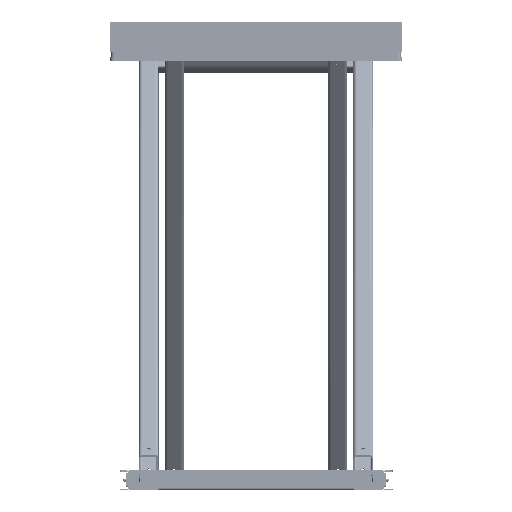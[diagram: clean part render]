
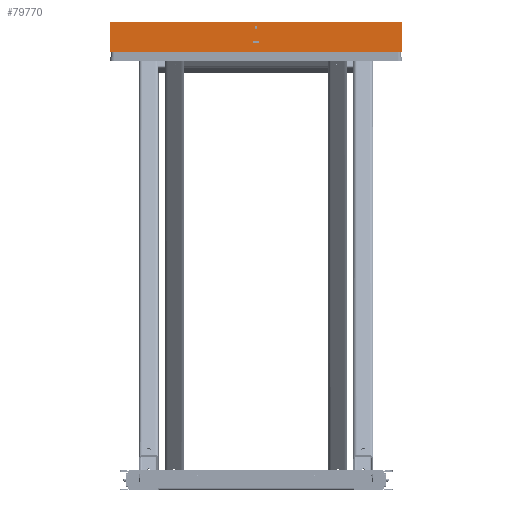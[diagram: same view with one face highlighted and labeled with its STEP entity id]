
A CAD part, front view. The second image highlights one B-rep face of the part: STEP entity #79770.
In plain terms, the highlighted planar face has unit normal (0, -1, 0) as drawn and (0, 0, 1) by its records, which use the part's own axes.
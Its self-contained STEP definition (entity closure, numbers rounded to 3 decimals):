
#3804=FACE_BOUND('',#13367,.T.);
#3805=FACE_BOUND('',#13368,.T.);
#5355=PLANE('',#86346);
#8690=FACE_OUTER_BOUND('',#13366,.T.);
#13366=EDGE_LOOP('',(#65438,#65439,#65440,#65441,#65442,#65443,#65444,#65445));
#13367=EDGE_LOOP('',(#65446,#65447,#65448,#65449,#65450,#65451,#65452,#65453,
#65454,#65455,#65456,#65457,#65458,#65459,#65460,#65461));
#13368=EDGE_LOOP('',(#65462));
#19868=LINE('',#125069,#27515);
#19869=LINE('',#125073,#27516);
#19870=LINE('',#125077,#27517);
#19871=LINE('',#125080,#27518);
#19872=LINE('',#125082,#27519);
#19873=LINE('',#125090,#27520);
#19874=LINE('',#125098,#27521);
#19875=LINE('',#125106,#27522);
#27515=VECTOR('',#102150,10.);
#27516=VECTOR('',#102153,10.);
#27517=VECTOR('',#102156,10.);
#27518=VECTOR('',#102159,10.);
#27519=VECTOR('',#102160,10.);
#27520=VECTOR('',#102167,10.);
#27521=VECTOR('',#102174,10.);
#27522=VECTOR('',#102181,10.);
#32729=CIRCLE('',#86342,1.);
#32730=CIRCLE('',#86344,1.);
#32732=CIRCLE('',#86347,1.);
#32733=CIRCLE('',#86348,1.);
#32734=CIRCLE('',#86349,1.);
#32735=CIRCLE('',#86350,1.);
#32736=CIRCLE('',#86351,1.);
#32737=CIRCLE('',#86352,1.);
#32738=CIRCLE('',#86353,1.);
#32739=CIRCLE('',#86354,1.);
#32740=CIRCLE('',#86355,1.);
#32741=CIRCLE('',#86356,1.);
#32742=CIRCLE('',#86357,1.);
#32743=CIRCLE('',#86358,1.);
#32744=CIRCLE('',#86359,1.);
#32745=CIRCLE('',#86360,1.);
#32746=CIRCLE('',#86361,6.25);
#38134=VERTEX_POINT('',#125053);
#38135=VERTEX_POINT('',#125055);
#38136=VERTEX_POINT('',#125059);
#38138=VERTEX_POINT('',#125065);
#38139=VERTEX_POINT('',#125066);
#38140=VERTEX_POINT('',#125068);
#38141=VERTEX_POINT('',#125070);
#38142=VERTEX_POINT('',#125072);
#38143=VERTEX_POINT('',#125074);
#38144=VERTEX_POINT('',#125076);
#38145=VERTEX_POINT('',#125078);
#38146=VERTEX_POINT('',#125081);
#38147=VERTEX_POINT('',#125083);
#38148=VERTEX_POINT('',#125085);
#38149=VERTEX_POINT('',#125087);
#38150=VERTEX_POINT('',#125089);
#38151=VERTEX_POINT('',#125091);
#38152=VERTEX_POINT('',#125093);
#38153=VERTEX_POINT('',#125095);
#38154=VERTEX_POINT('',#125097);
#38155=VERTEX_POINT('',#125099);
#38156=VERTEX_POINT('',#125101);
#38157=VERTEX_POINT('',#125103);
#38158=VERTEX_POINT('',#125105);
#38159=VERTEX_POINT('',#125108);
#47830=EDGE_CURVE('',#38134,#38135,#32729,.T.);
#47832=EDGE_CURVE('',#38136,#38135,#32730,.T.);
#47835=EDGE_CURVE('',#38138,#38139,#32732,.T.);
#47836=EDGE_CURVE('',#38140,#38138,#19868,.T.);
#47837=EDGE_CURVE('',#38141,#38140,#32733,.T.);
#47838=EDGE_CURVE('',#38142,#38141,#19869,.T.);
#47839=EDGE_CURVE('',#38143,#38142,#32734,.T.);
#47840=EDGE_CURVE('',#38144,#38143,#19870,.T.);
#47841=EDGE_CURVE('',#38145,#38144,#32735,.T.);
#47842=EDGE_CURVE('',#38139,#38145,#19871,.T.);
#47843=EDGE_CURVE('',#38134,#38146,#19872,.T.);
#47844=EDGE_CURVE('',#38147,#38146,#32736,.T.);
#47845=EDGE_CURVE('',#38147,#38148,#32737,.T.);
#47846=EDGE_CURVE('',#38149,#38148,#32738,.T.);
#47847=EDGE_CURVE('',#38149,#38150,#19873,.T.);
#47848=EDGE_CURVE('',#38151,#38150,#32739,.T.);
#47849=EDGE_CURVE('',#38151,#38152,#32740,.T.);
#47850=EDGE_CURVE('',#38153,#38152,#32741,.T.);
#47851=EDGE_CURVE('',#38153,#38154,#19874,.T.);
#47852=EDGE_CURVE('',#38155,#38154,#32742,.T.);
#47853=EDGE_CURVE('',#38155,#38156,#32743,.T.);
#47854=EDGE_CURVE('',#38157,#38156,#32744,.T.);
#47855=EDGE_CURVE('',#38157,#38158,#19875,.T.);
#47856=EDGE_CURVE('',#38136,#38158,#32745,.T.);
#47857=EDGE_CURVE('',#38159,#38159,#32746,.T.);
#65438=ORIENTED_EDGE('',*,*,#47835,.F.);
#65439=ORIENTED_EDGE('',*,*,#47836,.F.);
#65440=ORIENTED_EDGE('',*,*,#47837,.F.);
#65441=ORIENTED_EDGE('',*,*,#47838,.F.);
#65442=ORIENTED_EDGE('',*,*,#47839,.F.);
#65443=ORIENTED_EDGE('',*,*,#47840,.F.);
#65444=ORIENTED_EDGE('',*,*,#47841,.F.);
#65445=ORIENTED_EDGE('',*,*,#47842,.F.);
#65446=ORIENTED_EDGE('',*,*,#47830,.F.);
#65447=ORIENTED_EDGE('',*,*,#47843,.T.);
#65448=ORIENTED_EDGE('',*,*,#47844,.F.);
#65449=ORIENTED_EDGE('',*,*,#47845,.T.);
#65450=ORIENTED_EDGE('',*,*,#47846,.F.);
#65451=ORIENTED_EDGE('',*,*,#47847,.T.);
#65452=ORIENTED_EDGE('',*,*,#47848,.F.);
#65453=ORIENTED_EDGE('',*,*,#47849,.T.);
#65454=ORIENTED_EDGE('',*,*,#47850,.F.);
#65455=ORIENTED_EDGE('',*,*,#47851,.T.);
#65456=ORIENTED_EDGE('',*,*,#47852,.F.);
#65457=ORIENTED_EDGE('',*,*,#47853,.T.);
#65458=ORIENTED_EDGE('',*,*,#47854,.F.);
#65459=ORIENTED_EDGE('',*,*,#47855,.T.);
#65460=ORIENTED_EDGE('',*,*,#47856,.F.);
#65461=ORIENTED_EDGE('',*,*,#47832,.T.);
#65462=ORIENTED_EDGE('',*,*,#47857,.T.);
#79770=ADVANCED_FACE('',(#8690,#3804,#3805),#5355,.T.);
#86342=AXIS2_PLACEMENT_3D('',#125056,#102136,#102137);
#86344=AXIS2_PLACEMENT_3D('',#125060,#102141,#102142);
#86346=AXIS2_PLACEMENT_3D('',#125064,#102146,#102147);
#86347=AXIS2_PLACEMENT_3D('',#125067,#102148,#102149);
#86348=AXIS2_PLACEMENT_3D('',#125071,#102151,#102152);
#86349=AXIS2_PLACEMENT_3D('',#125075,#102154,#102155);
#86350=AXIS2_PLACEMENT_3D('',#125079,#102157,#102158);
#86351=AXIS2_PLACEMENT_3D('',#125084,#102161,#102162);
#86352=AXIS2_PLACEMENT_3D('',#125086,#102163,#102164);
#86353=AXIS2_PLACEMENT_3D('',#125088,#102165,#102166);
#86354=AXIS2_PLACEMENT_3D('',#125092,#102168,#102169);
#86355=AXIS2_PLACEMENT_3D('',#125094,#102170,#102171);
#86356=AXIS2_PLACEMENT_3D('',#125096,#102172,#102173);
#86357=AXIS2_PLACEMENT_3D('',#125100,#102175,#102176);
#86358=AXIS2_PLACEMENT_3D('',#125102,#102177,#102178);
#86359=AXIS2_PLACEMENT_3D('',#125104,#102179,#102180);
#86360=AXIS2_PLACEMENT_3D('',#125107,#102182,#102183);
#86361=AXIS2_PLACEMENT_3D('',#125109,#102184,#102185);
#102136=DIRECTION('center_axis',(0.,0.,-1.));
#102137=DIRECTION('ref_axis',(-0.5,-0.866,0.));
#102141=DIRECTION('center_axis',(0.,0.,-1.));
#102142=DIRECTION('ref_axis',(1.,0.,0.));
#102146=DIRECTION('center_axis',(0.,0.,1.));
#102147=DIRECTION('ref_axis',(1.,0.,0.));
#102148=DIRECTION('center_axis',(0.,0.,-1.));
#102149=DIRECTION('ref_axis',(-0.707,0.707,0.));
#102150=DIRECTION('',(0.,1.,0.));
#102151=DIRECTION('center_axis',(0.,0.,-1.));
#102152=DIRECTION('ref_axis',(-0.707,-0.707,0.));
#102153=DIRECTION('',(-1.,0.,0.));
#102154=DIRECTION('center_axis',(0.,0.,-1.));
#102155=DIRECTION('ref_axis',(0.707,-0.707,0.));
#102156=DIRECTION('',(0.,-1.,0.));
#102157=DIRECTION('center_axis',(0.,0.,-1.));
#102158=DIRECTION('ref_axis',(0.707,0.707,0.));
#102159=DIRECTION('',(1.,0.,0.));
#102160=DIRECTION('',(1.,0.,0.));
#102161=DIRECTION('center_axis',(0.,0.,-1.));
#102162=DIRECTION('ref_axis',(0.5,-0.866,0.));
#102163=DIRECTION('center_axis',(0.,0.,-1.));
#102164=DIRECTION('ref_axis',(1.,0.,0.));
#102165=DIRECTION('center_axis',(0.,0.,-1.));
#102166=DIRECTION('ref_axis',(-0.866,0.5,0.));
#102167=DIRECTION('',(0.,-1.,0.));
#102168=DIRECTION('center_axis',(0.,0.,-1.));
#102169=DIRECTION('ref_axis',(-0.866,-0.5,0.));
#102170=DIRECTION('center_axis',(0.,0.,-1.));
#102171=DIRECTION('ref_axis',(1.,0.,0.));
#102172=DIRECTION('center_axis',(0.,0.,-1.));
#102173=DIRECTION('ref_axis',(0.5,0.866,0.));
#102174=DIRECTION('',(-1.,0.,0.));
#102175=DIRECTION('center_axis',(0.,0.,-1.));
#102176=DIRECTION('ref_axis',(-0.5,0.866,0.));
#102177=DIRECTION('center_axis',(0.,0.,-1.));
#102178=DIRECTION('ref_axis',(1.,0.,0.));
#102179=DIRECTION('center_axis',(0.,0.,-1.));
#102180=DIRECTION('ref_axis',(0.866,-0.5,0.));
#102181=DIRECTION('',(0.,1.,0.));
#102182=DIRECTION('center_axis',(0.,0.,-1.));
#102183=DIRECTION('ref_axis',(0.866,0.5,0.));
#102184=DIRECTION('center_axis',(0.,0.,-1.));
#102185=DIRECTION('ref_axis',(1.,0.,0.));
#125053=CARTESIAN_POINT('',(-13.318,28.1,6.));
#125055=CARTESIAN_POINT('',(-14.184,28.6,6.));
#125056=CARTESIAN_POINT('Origin',(-13.318,29.1,6.));
#125059=CARTESIAN_POINT('',(-15.55,27.234,6.));
#125060=CARTESIAN_POINT('Origin',(-15.05,28.1,6.));
#125064=CARTESIAN_POINT('Origin',(0.,0.,6.));
#125065=CARTESIAN_POINT('',(-750.,77.,6.));
#125066=CARTESIAN_POINT('',(-749.,78.,6.));
#125067=CARTESIAN_POINT('Origin',(-749.,77.,6.));
#125068=CARTESIAN_POINT('',(-750.,-77.,6.));
#125069=CARTESIAN_POINT('',(-750.,-78.,6.));
#125070=CARTESIAN_POINT('',(-749.,-78.,6.));
#125071=CARTESIAN_POINT('Origin',(-749.,-77.,6.));
#125072=CARTESIAN_POINT('',(749.,-78.,6.));
#125073=CARTESIAN_POINT('',(750.,-78.,6.));
#125074=CARTESIAN_POINT('',(750.,-77.,6.));
#125075=CARTESIAN_POINT('Origin',(749.,-77.,6.));
#125076=CARTESIAN_POINT('',(750.,77.,6.));
#125077=CARTESIAN_POINT('',(750.,78.,6.));
#125078=CARTESIAN_POINT('',(749.,78.,6.));
#125079=CARTESIAN_POINT('Origin',(749.,77.,6.));
#125080=CARTESIAN_POINT('',(-750.,78.,6.));
#125081=CARTESIAN_POINT('',(13.318,28.1,6.));
#125082=CARTESIAN_POINT('',(-7.525,28.1,6.));
#125083=CARTESIAN_POINT('',(14.184,28.6,6.));
#125084=CARTESIAN_POINT('Origin',(13.318,29.1,6.));
#125085=CARTESIAN_POINT('',(15.55,27.234,6.));
#125086=CARTESIAN_POINT('Origin',(15.05,28.1,6.));
#125087=CARTESIAN_POINT('',(15.05,26.368,6.));
#125088=CARTESIAN_POINT('Origin',(16.05,26.368,6.));
#125089=CARTESIAN_POINT('',(15.05,23.632,6.));
#125090=CARTESIAN_POINT('',(15.05,14.05,6.));
#125091=CARTESIAN_POINT('',(15.55,22.766,6.));
#125092=CARTESIAN_POINT('Origin',(16.05,23.632,6.));
#125093=CARTESIAN_POINT('',(14.184,21.4,6.));
#125094=CARTESIAN_POINT('Origin',(15.05,21.9,6.));
#125095=CARTESIAN_POINT('',(13.318,21.9,6.));
#125096=CARTESIAN_POINT('Origin',(13.318,20.9,6.));
#125097=CARTESIAN_POINT('',(-13.318,21.9,6.));
#125098=CARTESIAN_POINT('',(7.525,21.9,6.));
#125099=CARTESIAN_POINT('',(-14.184,21.4,6.));
#125100=CARTESIAN_POINT('Origin',(-13.318,20.9,6.));
#125101=CARTESIAN_POINT('',(-15.55,22.766,6.));
#125102=CARTESIAN_POINT('Origin',(-15.05,21.9,6.));
#125103=CARTESIAN_POINT('',(-15.05,23.632,6.));
#125104=CARTESIAN_POINT('Origin',(-16.05,23.632,6.));
#125105=CARTESIAN_POINT('',(-15.05,26.368,6.));
#125106=CARTESIAN_POINT('',(-15.05,10.95,6.));
#125107=CARTESIAN_POINT('Origin',(-16.05,26.368,6.));
#125108=CARTESIAN_POINT('',(6.25,-50.,6.));
#125109=CARTESIAN_POINT('Origin',(0.,-50.,6.));
